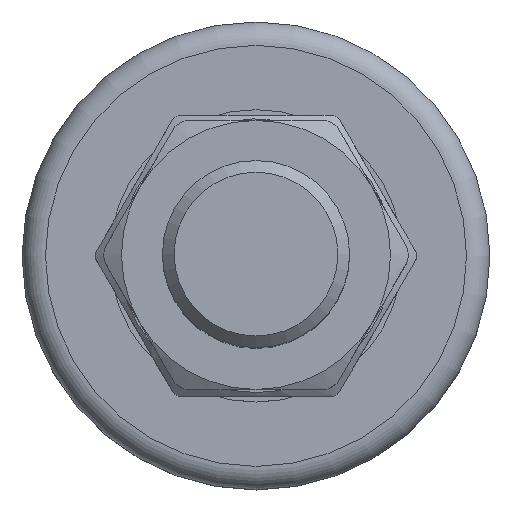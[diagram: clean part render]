
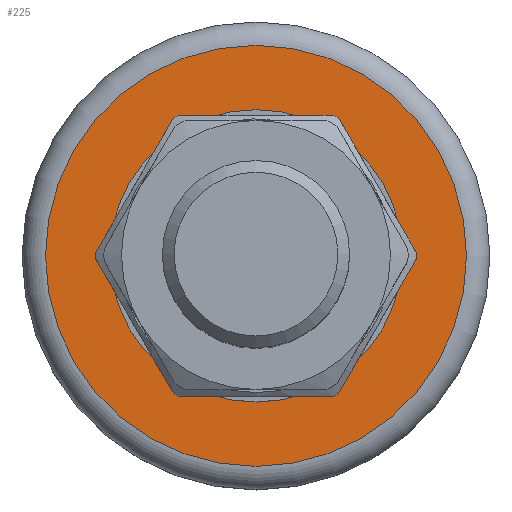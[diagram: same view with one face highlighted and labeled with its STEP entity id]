
A CAD part, top view. The second image highlights one B-rep face of the part: STEP entity #225.
In plain terms, the highlighted planar face has unit normal (0, 0, 1) as drawn and (0, 1, 0) by its records, which use the part's own axes.
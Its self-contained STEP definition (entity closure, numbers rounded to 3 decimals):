
#225=ADVANCED_FACE('',(#436,#437),#438,.F.);
#436=FACE_OUTER_BOUND('',#640,.T.);
#437=FACE_BOUND('',#641,.T.);
#438=PLANE('',#642);
#640=EDGE_LOOP('',(#1069));
#641=EDGE_LOOP('',(#1070));
#642=AXIS2_PLACEMENT_3D('',#1071,#1072,#1073);
#1069=ORIENTED_EDGE('',*,*,#1271,.F.);
#1070=ORIENTED_EDGE('',*,*,#1266,.T.);
#1071=CARTESIAN_POINT('',(-12.5,13.5,0.0));
#1072=DIRECTION('',(0.0,-1.0,0.));
#1073=DIRECTION('',(-1.0,0.0,0.0));
#1266=EDGE_CURVE('',#1504,#1504,#1505,.T.);
#1271=EDGE_CURVE('',#1511,#1511,#1512,.T.);
#1504=VERTEX_POINT('',#1963);
#1505=CIRCLE('',#1964,12.5);
#1511=VERTEX_POINT('',#1970);
#1512=CIRCLE('',#1971,18.0);
#1963=CARTESIAN_POINT('',(0.0,13.5,-12.5));
#1964=AXIS2_PLACEMENT_3D('',#2167,#2168,#2169);
#1970=CARTESIAN_POINT('',(0.0,13.5,-18.0));
#1971=AXIS2_PLACEMENT_3D('',#2173,#2174,#2175);
#2167=CARTESIAN_POINT('',(0.0,13.5,0.0));
#2168=DIRECTION('',(0.0,-1.0,0.));
#2169=DIRECTION('',(0.0,0.,-1.0));
#2173=CARTESIAN_POINT('',(0.0,13.5,0.0));
#2174=DIRECTION('',(0.0,-1.0,0.));
#2175=DIRECTION('',(0.0,0.,-1.0));
